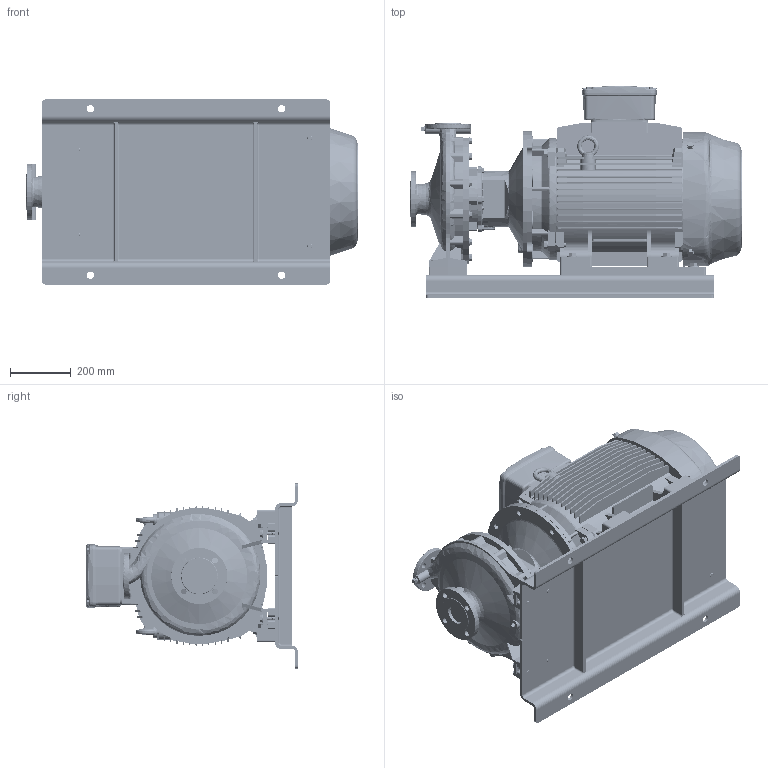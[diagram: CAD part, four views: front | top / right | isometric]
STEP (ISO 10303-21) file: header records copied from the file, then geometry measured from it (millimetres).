
FILE_DESCRIPTION (( 'STEP AP214' ), '1' );
FILE_NAME ('GSD2 40-315_45_(225SM)_W21_BP.STEP', '2024-04-26T04:21:24', ( '' ), ( '' ), 'SwSTEP 2.0', 'SolidWorks 2019', '' );
FILE_SCHEMA (( 'AUTOMOTIVE_DESIGN' ));
Length unit declared in the file: millimetre
Products named in the file (11): N7S3 GSDA-73A F1-1832953-00; Parametric bolt_SFT-A355B; Parametric Flat Washer_M12; 40-315-225S_M; GSD2  40-315_45_(225SM)_W21_BP; Parametric bolt_SFT-A309B; 80x25 -CGSDA-5281 (225) (Offset); 225S_M2P IE3_W21T_B35; CGS11-5311_2_3_4_5_CGS11-5312; Parametric Flat Washer_M16; Parametric bolt_SFT-A359B
Assembly tree (27 placements, depth 2):
  GSD2  40-315_45_(225SM)_W21_BP
    40-315-225S_M
    225S_M2P IE3_W21T_B35
    CGS11-5311_2_3_4_5_CGS11-5312  x2
    N7S3 GSDA-73A F1-1832953-00
    80x25 -CGSDA-5281 (225) (Offset)  x2
    Parametric bolt_SFT-A355B  x2
    Parametric bolt_SFT-A359B  x4
    Parametric bolt_SFT-A309B  x4
    Parametric Flat Washer_M12  x4
    Parametric Flat Washer_M16  x6
Bounding box: 1094.5 x 698 x 610 mm (x, y, z)
Volume: 130396126.5 mm3; surface area: 5918437 mm2
Topology: 44 solids, 49 shells, 4382 faces, 11661 edges, 7500 vertices
Faces by surface type: plane 1854, cylinder 1441, cone 520, torus 300, bspline 252, sphere 15
Entity records: 176223 total; most frequent: CARTESIAN_POINT 67534, ORIENTED_EDGE 20844, DIRECTION 19040, EDGE_CURVE 10422, AXIS2_PLACEMENT_3D 6957, VERTEX_POINT 6705, LINE 5126, VECTOR 5126
